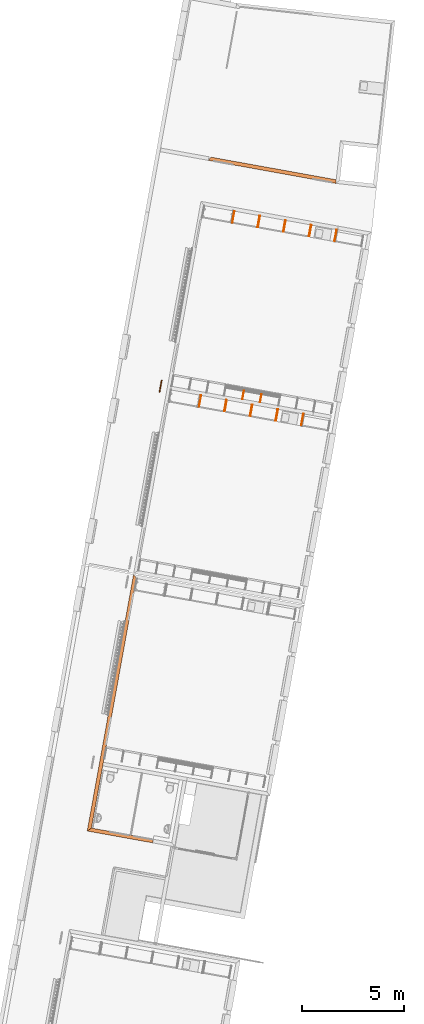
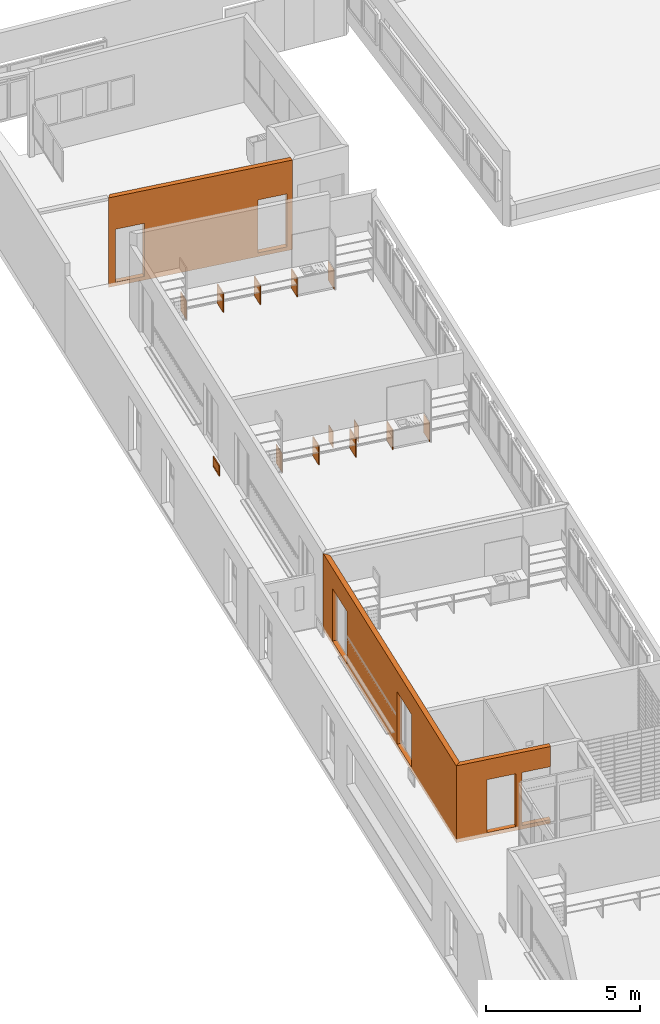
# One storey, part 35 of 52: 16 proxies.
"""IFC2X3 building model written with IfcOpenShell, lengths in metres."""

from ifc_helpers import new_model, entity, si_unit, converted_unit, derived_unit, money_unit, direction, frame, origin_with_axes, place, context, subcontext, project, spatial, polyline, outline, extrude, boolean, open_shell, faceted_brep, surface_model, source, transform, mapped, material, type_object, element, save


model = new_model("IFC2X3")

# Units and contexts
model_context = context("Model", 3, precision=1e-05, world=origin_with_axes(), true_north=direction((0.0, 1.0)))
body_context = subcontext(model_context, "Body", "Model", "MODEL_VIEW")
ifc_project = project(units=[si_unit("LENGTHUNIT", "METRE"), si_unit("AREAUNIT", "SQUARE_METRE"), si_unit("VOLUMEUNIT", "CUBIC_METRE"), converted_unit("PLANEANGLEUNIT", "DEGREE", entity("IfcPlaneAngleMeasure", 0.0174532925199), si_unit("PLANEANGLEUNIT", "RADIAN"), dimensions=[0, 0, 0, 0, 0, 0, 0]), money_unit("CHF"), converted_unit("TIMEUNIT", "Year", entity("IfcTimeMeasure", 31556926.0), si_unit("TIMEUNIT", "SECOND"), dimensions=[0, 0, 1, 0, 0, 0, 0]), si_unit("MASSUNIT", "GRAM", prefix="KILO"), si_unit("THERMODYNAMICTEMPERATUREUNIT", "DEGREE_CELSIUS"), si_unit("LUMINOUSINTENSITYUNIT", "LUMEN"), si_unit("ENERGYUNIT", "JOULE", prefix="MEGA"), derived_unit("THERMALCONDUCTANCEUNIT", [(si_unit("POWERUNIT", "WATT"), 1), (si_unit("LENGTHUNIT", "METRE"), -1), (si_unit("THERMODYNAMICTEMPERATUREUNIT", "KELVIN"), -1)]), derived_unit("SPECIFICHEATCAPACITYUNIT", [(si_unit("ENERGYUNIT", "JOULE"), 1), (si_unit("MASSUNIT", "GRAM", prefix="KILO"), -1), (si_unit("THERMODYNAMICTEMPERATUREUNIT", "KELVIN"), -1)]), derived_unit("MASSDENSITYUNIT", [(si_unit("MASSUNIT", "GRAM", prefix="KILO"), 1), (si_unit("VOLUMEUNIT", "CUBIC_METRE"), -1)])], contexts=[model_context])

# Site, building, storey
site_placement = place(None, frame((0.0, 0.0, 0.0), z_axis=(0.0, 0.0, 1.0), x_axis=(-0.177771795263, -0.984071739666, 0.0)))
site = spatial("IfcSite", under=ifc_project, at=site_placement, Name="Site", CompositionType="ELEMENT")
building_placement = place(site_placement, origin_with_axes())
building = spatial("IfcBuilding", under=site, at=building_placement, Name="Bâtiment", CompositionType="ELEMENT")
storey_placement = place(building_placement, frame((0.0, 0.0, 3.2), z_axis=(0.0, 0.0, 1.0), x_axis=(1.0, 0.0, 0.0)))
storey = spatial("IfcBuildingStorey", under=building, at=storey_placement, Name="R+1", CompositionType="ELEMENT", Elevation=3.2)

# Proxies
ifc_material_1 = material(Name="_BA banché RAL9007")
building_element_proxy_type_1 = type_object("IfcBuildingElementProxyType", Name="_BA banché RAL9007 180", PredefinedType="NOTDEFINED")
proxy_1_placement = place(storey_placement, frame((141.294841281, -156.627151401, -0.15), z_axis=(0.0, 0.0, 1.0), x_axis=(-1.0, 0.0, 0.0)))
element("IfcBuildingElementProxy", 1, at=proxy_1_placement, inside=storey, type_object=building_element_proxy_type_1, material=ifc_material_1, Name="M refend", context=body_context, shape_type="CSG", body=[
    boolean("DIFFERENCE", boolean("DIFFERENCE", extrude(outline(polyline([(0.180000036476, -0.18), (12.610000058, -0.18), (12.790000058, 0.0), (0.0, 0.0), (0.180000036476, -0.18)])), origin_with_axes(), (0.0, 0.0, 1.0), 3.05), faceted_brep([(11.910000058, 0.0, 0.15), (10.510000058, 0.0, 0.15), (10.510000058, 0.0, 2.25), (11.910000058, 0.0, 2.25), (11.910000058, -0.18, 0.15), (10.510000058, -0.18, 0.15), (10.510000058, -0.18, 2.25), (11.910000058, -0.18, 2.25)], [[[0, 1, 2, 3]], [[4, 5, 1, 0]], [[5, 6, 2, 1]], [[6, 7, 3, 2]], [[7, 4, 0, 3]], [[4, 7, 6, 5]]])), faceted_brep([(5.71000005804, 0.0, 0.15), (4.31000005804, 0.0, 0.15), (4.31000005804, 0.0, 2.25), (5.71000005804, 0.0, 2.25), (5.71000005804, -0.18, 0.15), (4.31000005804, -0.18, 0.15), (4.31000005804, -0.18, 2.25), (5.71000005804, -0.18, 2.25)], [[[0, 1, 2, 3]], [[4, 5, 1, 0]], [[5, 6, 2, 1]], [[6, 7, 3, 2]], [[7, 4, 0, 3]], [[4, 7, 6, 5]]])),
])
proxy_2_placement = place(storey_placement, frame((141.294841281, -156.627151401, -0.15), z_axis=(0.0, 0.0, 1.0), x_axis=(-2.02705790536e-07, 1.0, 0.0)))
element("IfcBuildingElementProxy", 2, at=proxy_2_placement, inside=storey, type_object=building_element_proxy_type_1, material=ifc_material_1, Name="M refend", context=body_context, shape_type="CSG", body=[
    boolean("DIFFERENCE", boolean("DIFFERENCE", extrude(outline(polyline([(0.0, 0.0), (3.26000131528, 0.0), (3.26000131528, 0.18), (0.180000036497, 0.18), (0.0, 0.0)])), origin_with_axes(), (0.0, 0.0, 1.0), 3.05), faceted_brep([(1.06000131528, 0.18, 0.15), (1.06000131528, 0.18, 2.25), (2.06000131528, 0.18, 2.25), (2.06000131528, 0.18, 0.15), (1.06000131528, 0.0, 0.15), (1.06000131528, 0.0, 2.25), (2.06000131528, 0.0, 2.25), (2.06000131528, 0.0, 0.15)], [[[0, 1, 2, 3]], [[4, 5, 1, 0]], [[5, 6, 2, 1]], [[6, 7, 3, 2]], [[7, 4, 0, 3]], [[4, 7, 6, 5]]])), faceted_brep([(3.26000131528, 0.0, 0.15), (3.26000131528, 0.18, 0.15), (3.26000131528, 0.18, 2.25), (3.26000131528, 0.0, 2.25), (2.26000131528, 0.0, 0.15), (2.26000131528, 0.18, 0.15), (2.26000131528, 0.18, 2.25), (2.26000131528, 0.0, 2.25)], [[[0, 1, 2, 3]], [[1, 0, 4, 5]], [[6, 2, 1, 5]], [[7, 3, 2, 6]], [[4, 0, 3, 7]], [[4, 7, 6, 5]]])),
])
proxy_3_placement = place(storey_placement, frame((107.884841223, -156.627050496, -0.15), z_axis=(0.0, 0.0, 1.0), x_axis=(0.0, 1.0, 0.0)))
element("IfcBuildingElementProxy", 3, at=proxy_3_placement, inside=storey, type_object=building_element_proxy_type_1, material=ifc_material_1, Name="M refend", context=body_context, shape_type="CSG", body=[
    boolean("DIFFERENCE", boolean("DIFFERENCE", extrude(outline(polyline([(0.0, 0.0), (6.34846974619, 0.0), (6.33597220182, 0.18), (0.1, 0.18), (0.0, 0.0)])), origin_with_axes(), (0.0, 0.0, 1.0), 3.55), faceted_brep([(0.24, 0.18, 0.15), (0.24, 0.18, 2.25), (1.24, 0.18, 2.25), (1.24, 0.18, 0.15), (0.24, 0.0, 0.15), (0.24, 0.0, 2.25), (1.24, 0.0, 2.25), (1.24, 0.0, 0.15)], [[[0, 1, 2, 3]], [[4, 5, 1, 0]], [[5, 6, 2, 1]], [[6, 7, 3, 2]], [[7, 4, 0, 3]], [[4, 7, 6, 5]]])), faceted_brep([(5.16684479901, 0.18, 0.15), (5.16684479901, 0.18, 2.25), (6.16684479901, 0.18, 2.25), (6.16684479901, 0.18, 0.15), (5.16684479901, 0.0, 0.15), (5.16684479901, 0.0, 2.25), (6.16684479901, 0.0, 2.25), (6.16684479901, 0.0, 0.15)], [[[0, 1, 2, 3]], [[4, 5, 1, 0]], [[5, 6, 2, 1]], [[6, 7, 3, 2]], [[7, 4, 0, 3]], [[4, 7, 6, 5]]])),
])
ifc_material_2 = material(Name="_panneau mélaminé")
building_element_proxy_type_2 = type_object("IfcBuildingElementProxyType", Name="_panneau mélaminé 38", PredefinedType="NOTDEFINED")
proxy_4_placement = place(storey_placement, frame((110.674841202, -151.104151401, 0.0), z_axis=(0.0, 0.0, 1.0), x_axis=(-1.0, 0.0, 0.0)))
element("IfcBuildingElementProxy", 4, at=proxy_4_placement, inside=storey, type_object=building_element_proxy_type_2, material=ifc_material_2, Name="raidiseur-fd-classe double", context=body_context, shape_type="SweptSolid", body=[
    extrude(outline(polyline([(0.0, -0.019), (0.569999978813, -0.019), (0.569999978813, 0.019), (0.0, 0.019), (0.0, -0.019)])), origin_with_axes(), (0.0, 0.0, 1.0), 0.76),
])
for number, where, z_axis, x_axis, name in (
    (5, (110.674841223, -153.660193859, 0.0), (0.0, 0.0, 1.0), (-1.0, 0.0, 0.0), "raidiseur-fd-classe double"),
    (6, (110.674841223, -152.382193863, 0.0), (0.0, 0.0, 1.0), (-1.0, 0.0, 0.0), "raidiseur-fd-classe double"),
    (7, (119.854841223, -153.660193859, 0.0), (0.0, 0.0, 1.0), (-1.0, 0.0, 0.0), "raidiseur-fd-classe double"),
):
    element("IfcBuildingElementProxy", number, at=place(storey_placement, frame(where, z_axis=z_axis, x_axis=x_axis)), inside=storey, type_object=building_element_proxy_type_2, material=ifc_material_2, Name=name, context=body_context, shape_type="SweptSolid", body=[
        extrude(outline(polyline([(0.0, -0.019), (0.57, -0.019), (0.57, 0.019), (0.0, 0.019), (0.0, -0.019)])), origin_with_axes(), (0.0, 0.0, 1.0), 0.76),
    ])
proxy_5_placement = place(storey_placement, frame((119.854841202, -151.104151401, 0.0), z_axis=(0.0, 0.0, 1.0), x_axis=(-1.0, 0.0, 0.0)))
element("IfcBuildingElementProxy", 8, at=proxy_5_placement, inside=storey, type_object=building_element_proxy_type_2, material=ifc_material_2, Name="raidiseur-fd-classe double", context=body_context, shape_type="SweptSolid", body=[
    extrude(outline(polyline([(0.0, -0.019), (0.569999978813, -0.019), (0.569999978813, 0.019), (0.0, 0.019), (0.0, -0.019)])), origin_with_axes(), (0.0, 0.0, 1.0), 0.76),
])
proxy_6_placement = place(storey_placement, frame((119.854841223, -152.382193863, 0.0), z_axis=(0.0, 0.0, 1.0), x_axis=(-1.0, 0.0, 0.0)))
element("IfcBuildingElementProxy", 9, at=proxy_6_placement, inside=storey, type_object=building_element_proxy_type_2, material=ifc_material_2, Name="raidiseur-fd-classe double", context=body_context, shape_type="SweptSolid", body=[
    extrude(outline(polyline([(0.0, -0.019), (0.57, -0.019), (0.57, 0.019), (0.0, 0.019), (0.0, -0.019)])), origin_with_axes(), (0.0, 0.0, 1.0), 0.76),
])
building_element_proxy_type_3 = type_object("IfcBuildingElementProxyType", Name="_panneau mélaminé 19", PredefinedType="NOTDEFINED")
proxy_7_placement = place(storey_placement, frame((110.674841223, -154.919236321, 0.0), z_axis=(0.0, 0.0, 1.0), x_axis=(-1.0, 0.0, 0.0)))
element("IfcBuildingElementProxy", 10, at=proxy_7_placement, inside=storey, type_object=building_element_proxy_type_3, material=ifc_material_2, Name="raidiseur-fd-classe simple", context=body_context, shape_type="SweptSolid", body=[
    extrude(outline(polyline([(0.0, 0.0), (0.570000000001, 0.0), (0.570000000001, 0.019), (0.0, 0.019), (0.0, 0.0)])), origin_with_axes(), (0.0, 0.0, 1.0), 0.76),
])
for number, where, z_axis, x_axis, name in (
    (11, (110.674841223, -149.845151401, 0.0), (0.0, 0.0, 1.0), (-1.0, 0.0, 0.0), "raidiseur-fd-classe simple"),
    (12, (119.854841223, -149.845151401, 0.0), (0.0, 0.0, 1.0), (-1.0, 0.0, 0.0), "raidiseur-fd-classe simple"),
):
    element("IfcBuildingElementProxy", number, at=place(storey_placement, frame(where, z_axis=z_axis, x_axis=x_axis)), inside=storey, type_object=building_element_proxy_type_3, material=ifc_material_2, Name=name, context=body_context, shape_type="SweptSolid", body=[
        extrude(outline(polyline([(0.0, -0.019), (0.57, -0.019), (0.57, 0.0), (0.0, 0.0), (0.0, -0.019)])), origin_with_axes(), (0.0, 0.0, 1.0), 0.76),
    ])
proxy_8_placement = place(storey_placement, frame((119.854841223, -154.919236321, 0.0), z_axis=(0.0, 0.0, 1.0), x_axis=(-1.0, 0.0, 0.0)))
element("IfcBuildingElementProxy", 13, at=proxy_8_placement, inside=storey, type_object=building_element_proxy_type_3, material=ifc_material_2, Name="raidiseur-fd-classe simple", context=body_context, shape_type="SweptSolid", body=[
    extrude(outline(polyline([(0.0, 0.0), (0.570000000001, 0.0), (0.570000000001, 0.019), (0.0, 0.019), (0.0, 0.0)])), origin_with_axes(), (0.0, 0.0, 1.0), 0.76),
])
proxy_9_placement = place(storey_placement, frame((118.694841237, -152.023049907, 0.0), z_axis=(0.0, 0.0, 1.0), x_axis=(1.0, 0.0, 0.0)))
element("IfcBuildingElementProxy", 14, at=proxy_9_placement, inside=storey, type_object=building_element_proxy_type_3, material=ifc_material_2, Name="raidiseur-sous-tableau", context=body_context, shape_type="SweptSolid", body=[
    extrude(outline(polyline([(0.0, -0.0095), (0.409999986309, -0.0095), (0.409999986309, 0.0095), (0.0, 0.0095), (0.0, -0.0095)])), origin_with_axes(), (0.0, 0.0, 1.0), 0.65),
])
proxy_10_placement = place(storey_placement, frame((118.694841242, -152.903049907, 0.0), z_axis=(0.0, 0.0, 1.0), x_axis=(1.0, 0.0, 0.0)))
element("IfcBuildingElementProxy", 15, at=proxy_10_placement, inside=storey, type_object=building_element_proxy_type_3, material=ifc_material_2, Name="raidiseur-sous-tableau", context=body_context, shape_type="SweptSolid", body=[
    extrude(outline(polyline([(0.0, -0.0095), (0.409999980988, -0.0095), (0.409999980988, 0.0095), (0.0, 0.0095), (0.0, -0.0095)])), origin_with_axes(), (0.0, 0.0, 1.0), 0.65),
])
ifc_material_3 = material(Name="Matériau de construction IFC")
building_element_proxy_type_4 = type_object("IfcBuildingElementProxyType", Name="Trappe-visite_JM", PredefinedType="NOTDEFINED")
shared_shape = source(origin_with_axes(), body_context, "Body", "SurfaceModel", [
    surface_model("IfcShellBasedSurfaceModel", [(0.6, -0.035, 0.0), (0.0, -0.035, 0.0), (0.0, -0.035, 0.4), (0.6, -0.035, 0.4), (0.54, -0.035, 0.06), (0.54, -0.035, 0.34), (0.06, -0.035, 0.34), (0.06, -0.035, 0.06)], [open_shell([[[0, 1, 2, 3], [4, 5, 6, 7]]])]),
    faceted_brep([(0.6, 0.005, 0.0), (0.6, -0.035, 0.0), (0.0, -0.035, 0.0), (0.0, 0.005, 0.0), (0.6, 0.005, 0.4), (0.6, -0.035, 0.4), (0.0, -0.035, 0.4), (0.54, -0.035, 0.06), (0.06, -0.035, 0.06), (0.06, -0.035, 0.34), (0.54, -0.035, 0.34), (0.0, 0.005, 0.4), (0.54, 0.005, 0.06), (0.54, 0.005, 0.34), (0.06, 0.005, 0.34), (0.06, 0.005, 0.06)], [[[0, 1, 2, 3]], [[4, 5, 1, 0]], [[1, 5, 6, 2], [7, 8, 9, 10]], [[3, 2, 6, 11]], [[0, 3, 11, 4], [12, 13, 14, 15]], [[11, 6, 5, 4]], [[15, 8, 7, 12]], [[14, 9, 8, 15]], [[13, 10, 9, 14]], [[12, 7, 10, 13]]]),
    faceted_brep([(0.06, 0.0, 0.06), (0.06, -0.02, 0.06), (0.06, -0.02, 0.34), (0.06, 0.0, 0.34), (0.54, 0.0, 0.06), (0.54, -0.02, 0.06), (0.54, -0.02, 0.34), (0.1, -0.02, 0.19), (0.1, -0.02, 0.21), (0.12, -0.02, 0.21), (0.12, -0.02, 0.19), (0.54, 0.0, 0.34), (0.1, 0.0, 0.19), (0.12, 0.0, 0.19), (0.12, 0.0, 0.21), (0.1, 0.0, 0.21)], [[[0, 1, 2, 3]], [[4, 5, 1, 0]], [[1, 5, 6, 2], [7, 8, 9, 10]], [[3, 2, 6, 11]], [[0, 3, 11, 4], [12, 13, 14, 15]], [[11, 6, 5, 4]], [[15, 8, 7, 12]], [[14, 9, 8, 15]], [[13, 10, 9, 14]], [[12, 7, 10, 13]]]),
])
proxy_11_placement = place(storey_placement, frame((119.494841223, -156.977151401, 0.1), z_axis=(0.0, 0.0, 1.0), x_axis=(-1.0, 0.0, 0.0)))
element("IfcBuildingElementProxy", 16, at=proxy_11_placement, inside=storey, type_object=building_element_proxy_type_4, material=ifc_material_3, Name="trappe clapet-CF", context=body_context, shape_type="MappedRepresentation", body=[
    mapped(shared_shape, transform((0.0, 0.0, 0.0))),
])

save(model, "model.ifc")
